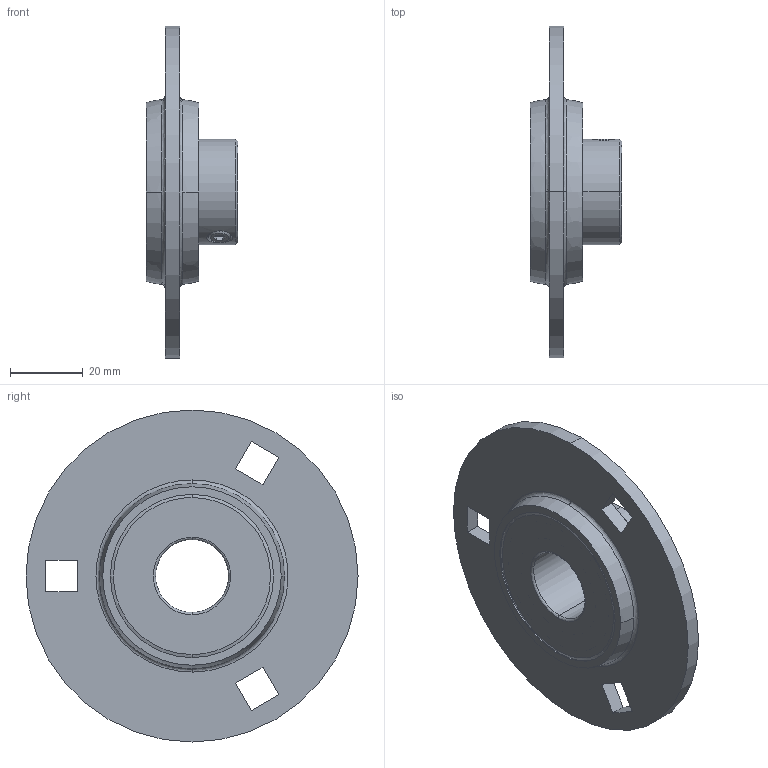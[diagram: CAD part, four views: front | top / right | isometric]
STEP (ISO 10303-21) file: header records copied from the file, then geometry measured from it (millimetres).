
FILE_DESCRIPTION (( 'STEP AP203' ), '1' );
FILE_NAME ('SBPF 204.STEP', '2018-03-12T09:35:17', ( '' ), ( '' ), 'SwSTEP 2.0', 'SolidWorks 2016', '' );
FILE_SCHEMA (( 'CONFIG_CONTROL_DESIGN' ));
Length unit declared in the file: millimetre
Products named in the file (1): SBPF 204
Bounding box: 25.2 x 91 x 91 mm (x, y, z)
Volume: 40080.8 mm3; surface area: 23764.9 mm2
Topology: 1 solids, 4 shells, 114 faces, 271 edges, 176 vertices
Faces by surface type: plane 39, bspline 35, cylinder 26, cone 14
Entity records: 4932 total; most frequent: CARTESIAN_POINT 2311, ORIENTED_EDGE 542, DIRECTION 502, EDGE_CURVE 271, AXIS2_PLACEMENT_3D 195, VERTEX_POINT 176, EDGE_LOOP 139, CIRCLE 115
